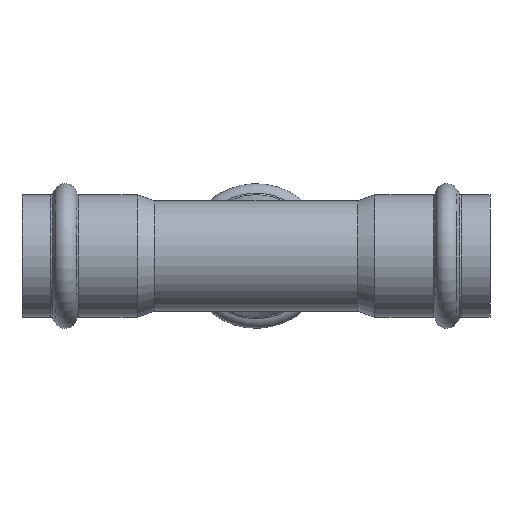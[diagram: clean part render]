
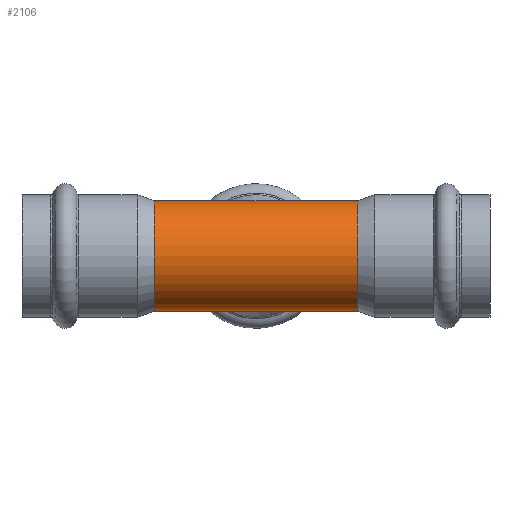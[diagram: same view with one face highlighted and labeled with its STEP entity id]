
A CAD part, front view. The second image highlights one B-rep face of the part: STEP entity #2106.
In plain terms, the highlighted cylindrical face has radius 14 mm (diameter 28 mm), a full revolution.
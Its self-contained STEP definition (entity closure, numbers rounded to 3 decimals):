
#1333=CARTESIAN_POINT('',(-59.5,0.,14.));
#1334=VERTEX_POINT('',#1333);
#1335=CARTESIAN_POINT('',(-59.5,0.,-14.));
#1336=VERTEX_POINT('',#1335);
#1337=CARTESIAN_POINT('',(-59.5,0.,0.0));
#1338=DIRECTION('',(-0.603,0.797,0.));
#1339=DIRECTION('',(0.797,0.603,0.0));
#1340=AXIS2_PLACEMENT_3D('',#1337,#1338,#1339);
#1341=ELLIPSE('',#1340,23.2,14.);
#1342=EDGE_CURVE('',#1334,#1336,#1341,.T.);
#1565=CARTESIAN_POINT('',(-59.5,0.,0.0));
#1566=DIRECTION('',(0.603,0.797,0.));
#1567=DIRECTION('',(-0.797,0.603,0.0));
#1568=AXIS2_PLACEMENT_3D('',#1565,#1566,#1567);
#1569=ELLIPSE('',#1568,23.2,14.);
#1570=EDGE_CURVE('',#1336,#1334,#1569,.T.);
#2068=CARTESIAN_POINT('',(-85.34,14.,0.0));
#2069=VERTEX_POINT('',#2068);
#2070=CARTESIAN_POINT('',(-85.34,0.,0.0));
#2071=DIRECTION('',(1.0,0.0,0.0));
#2072=DIRECTION('',(0.0,1.0,0.0));
#2073=AXIS2_PLACEMENT_3D('',#2070,#2071,#2072);
#2074=CIRCLE('',#2073,14.);
#2075=EDGE_CURVE('',#2069,#2069,#2074,.T.);
#2083=CARTESIAN_POINT('',(-59.5,0.,0.0));
#2084=DIRECTION('',(1.0,0.,0.0));
#2085=DIRECTION('',(0.0,1.0,0.0));
#2086=AXIS2_PLACEMENT_3D('',#2083,#2084,#2085);
#2087=CYLINDRICAL_SURFACE('',#2086,14.);
#2088=ORIENTED_EDGE('',*,*,#2075,.T.);
#2089=EDGE_LOOP('',(#2088));
#2090=FACE_OUTER_BOUND('',#2089,.T.);
#2091=ORIENTED_EDGE('',*,*,#1342,.F.);
#2092=ORIENTED_EDGE('',*,*,#1570,.F.);
#2093=EDGE_LOOP('',(#2091,#2092));
#2094=FACE_BOUND('',#2093,.T.);
#2095=CARTESIAN_POINT('',(-33.66,14.,0.0));
#2096=VERTEX_POINT('',#2095);
#2097=CARTESIAN_POINT('',(-33.66,0.,0.0));
#2098=DIRECTION('',(1.0,0.0,0.0));
#2099=DIRECTION('',(0.0,1.0,0.0));
#2100=AXIS2_PLACEMENT_3D('',#2097,#2098,#2099);
#2101=CIRCLE('',#2100,14.);
#2102=EDGE_CURVE('',#2096,#2096,#2101,.T.);
#2103=ORIENTED_EDGE('',*,*,#2102,.F.);
#2104=EDGE_LOOP('',(#2103));
#2105=FACE_BOUND('',#2104,.T.);
#2106=ADVANCED_FACE('',(#2090,#2094,#2105),#2087,.T.);
